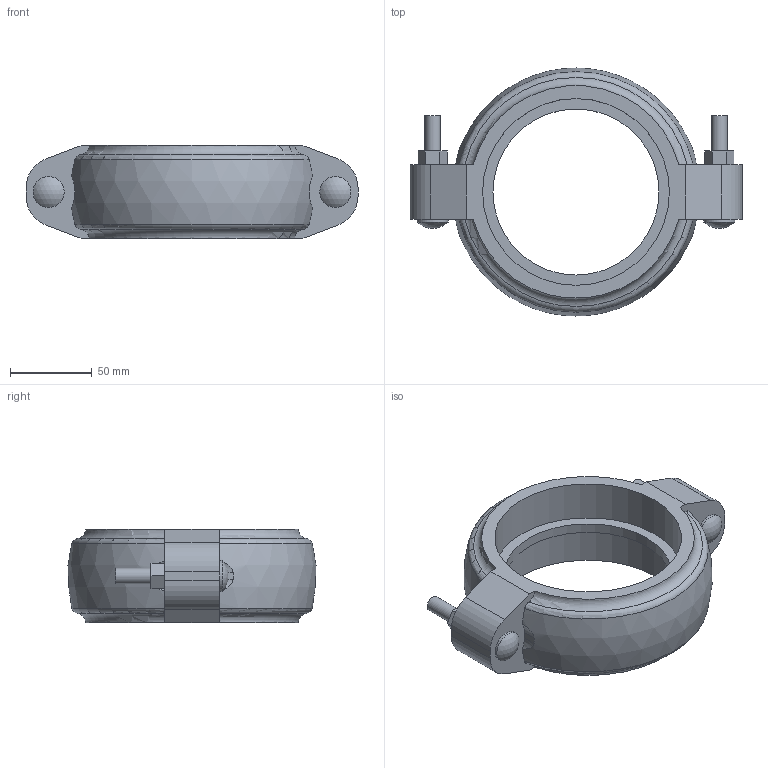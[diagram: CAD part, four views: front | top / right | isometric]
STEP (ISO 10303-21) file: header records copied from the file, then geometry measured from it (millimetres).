
FILE_DESCRIPTION(/* description */ ('VIC STRENGTHIN COUPLING STYLE E497 (RIGID)','CAx-IF Rec.Pracs.---Representation and Presentation of Product Manufacturing Information (PMI)---4.0---2014-10-13'),/* implementation_level */ '2;1');
FILE_NAME(/* name */ 'C:\Users\Vjadhav\AppData\Roaming\Autodesk\ApplicationPlugins\Back Up\Victaulic_SS-StrengThin 100_Coupling Rigid_Style E497 (ST1)\Victaulic_SS-StrengThin 100_Coupling Rigid_Style E497 (ST1)_4 (100).stp',/* time_stamp */ '2020-07-07T19:35:41+05:00',/* author */ ('jheald'),/* organization */ ('Victaulic'),/* preprocessor_version */ 'ST-DEVELOPER v17.2',/* originating_system */ 'Autodesk Inventor 2019',/* authorisation */ '');
FILE_SCHEMA (('AP242_MANAGED_MODEL_BASED_3D_ENGINEERING_MIM_LF { 1 0 10303 442 1 1 4 }'));
Length unit declared in the file: inch
Products named in the file (1): E497-04.0
Bounding box: 203.2 x 151.82 x 57.15 mm (x, y, z)
Volume: 472944.6 mm3; surface area: 76326.9 mm2
Topology: 1 solids, 3 shells, 79 faces, 211 edges, 142 vertices
Faces by surface type: plane 42, cylinder 25, torus 8, sphere 4
Full cylindrical faces by diameter (mm): 9.525 x4, 19.05 x2, 101.6 x1, 114.3 x2
Entity records: 3020 total; most frequent: CARTESIAN_POINT 778, DIRECTION 451, ORIENTED_EDGE 422, EDGE_CURVE 211, AXIS2_PLACEMENT_3D 171, VERTEX_POINT 142, LINE 109, VECTOR 109
